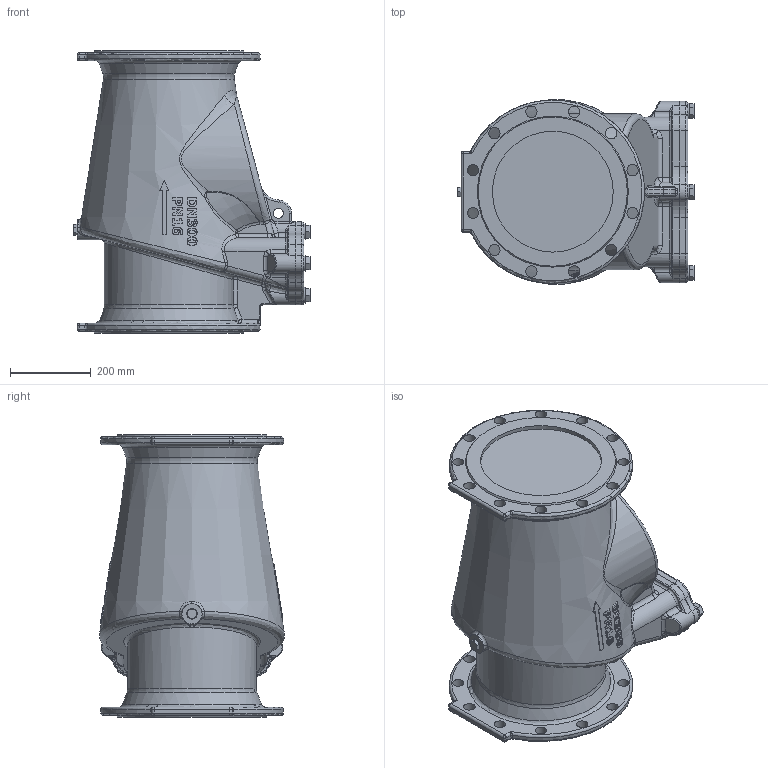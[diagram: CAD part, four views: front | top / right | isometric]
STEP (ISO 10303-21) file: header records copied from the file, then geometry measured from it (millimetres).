
FILE_DESCRIPTION(('STEP AP242'), '1');
FILE_NAME('VAR RETO-STOP 吾疣蝽 觌囡囗 DN 300 PN 16', '2026-06-28T08:25:21', (' '), (' '), 'C3D Converter', 'C3D Toolkit', '');
FILE_SCHEMA(('AP242_MANAGED_MODEL_BASED_3D_ENGINEERING_MIM_LF { 1 0 10303 442 1 1 4 }'));
Length unit declared in the file: millimetre
Products named in the file (1): Admi1EE092BCh8tx
Bounding box: 589.1 x 456.9 x 700 mm (x, y, z)
Volume: 90597069.3 mm3; surface area: 1646034.7 mm2
Topology: 1 solids, 6 shells, 803 faces, 1987 edges, 1189 vertices
Faces by surface type: plane 207, extrusion 172, cylinder 161, bspline 121, cone 66, torus 60, sphere 16
Full cylindrical faces by diameter (mm): 15.053 x1, 16 x1, 20 x1, 21.053 x4, 22 x1, 23 x4, 25 x1, 26 x1, 28 x24, 28.6 x4, 39 x4, 46.83 x1, 50 x1, 300 x2
Entity records: 62041 total; most frequent: CARTESIAN_POINT 38959, ORIENTED_EDGE 3752, DIRECTION 2759, EDGE_CURVE 1876, VERTEX_POINT 1188, AXIS2_PLACEMENT_3D 1013, B_SPLINE_CURVE_WITH_KNOTS 985, EDGE_LOOP 966
